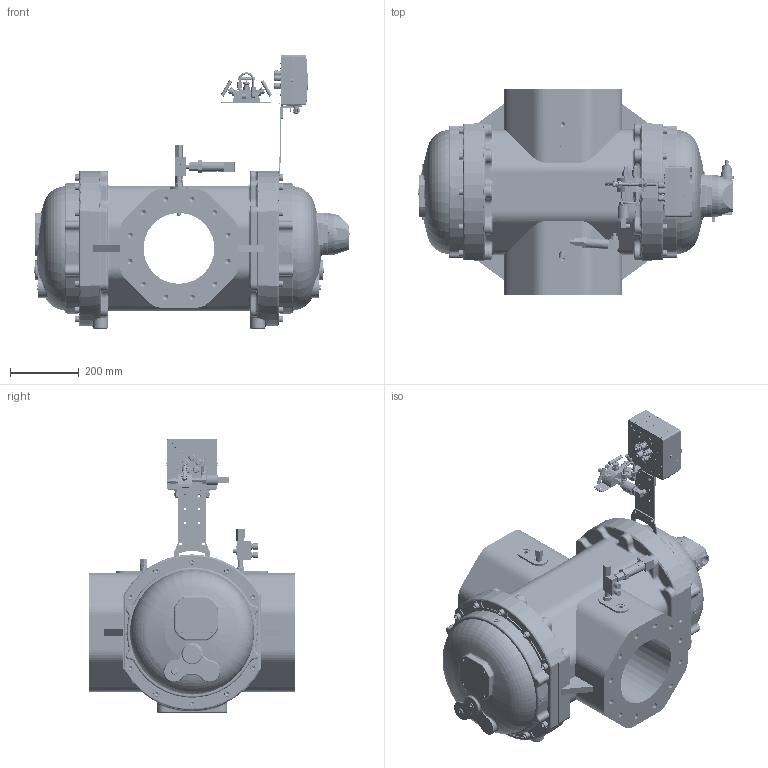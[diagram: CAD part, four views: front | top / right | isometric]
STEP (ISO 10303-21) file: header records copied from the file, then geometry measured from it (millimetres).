
FILE_DESCRIPTION(('STEP AP242'), '1');
FILE_NAME('ÝÐ-245-G1000 áåç èñòîðèè', '', ('UNSPECIFIED'), ('UNSPECIFIED'), 'C3D Converter', 'C3D Toolkit', '');
FILE_SCHEMA(('AP242_MANAGED_MODEL_BASED_3D_ENGINEERING_MIM_LF { 1 0 10303 442 1 1 4 }'));
Length unit declared in the file: millimetre
Bounding box: 918 x 600 x 798.54 mm (x, y, z)
Volume: 101759554.3 mm3; surface area: 3472167.5 mm2
Topology: 173 solids, 175 shells, 34161 faces, 92442 edges, 60953 vertices
Faces by surface type: plane 15692, extrusion 11492, cylinder 4719, bspline 813, cone 800, torus 568, sphere 77
Full cylindrical faces by diameter (mm): 1.5 x1, 1.95 x3, 2 x12, 2.459 x22, 2.5 x4, 2.791 x2, 2.9 x4, 3 x30, 3.2 x13, 3.242 x8, 3.3 x6, 3.45 x7, 3.5 x16, 4 x18, 4.1 x8, 4.134 x1, 4.2 x12, 4.4 x1, 4.917 x13, 5 x26, 5.2 x4, 5.5 x20, 5.6 x20, 6 x15, 6.2 x2, 6.4 x6, 6.5 x8, 7 x18, 8 x22, 8.5 x7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
Entity records: 1471809 total; most frequent: CARTESIAN_POINT 414572, ORIENTED_EDGE 181416, DIRECTION 131050, EDGE_CURVE 90708, VECTOR 63892, VERTEX_POINT 60843, LINE 52400, EDGE_LOOP 38507
